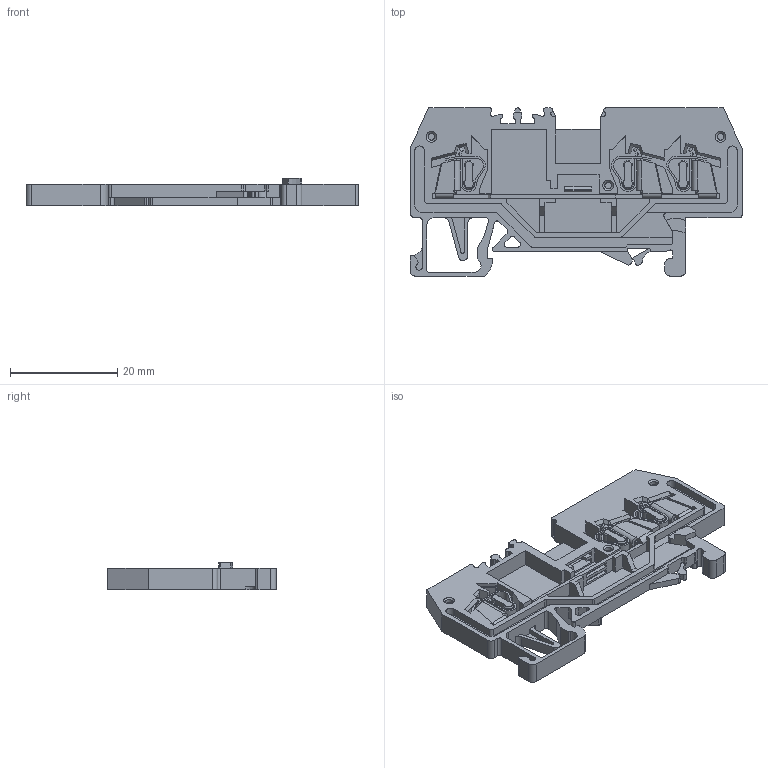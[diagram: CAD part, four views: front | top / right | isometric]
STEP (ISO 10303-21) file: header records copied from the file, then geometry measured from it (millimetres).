
FILE_DESCRIPTION (( 'STEP AP203' ), '1' );
FILE_NAME ('ﾊﾏﾐ1-1,5-3ﾂ.STEP', '2019-03-01T13:53:38', ( '' ), ( '' ), 'SwSTEP 2.0', 'SolidWorks 2016', '' );
FILE_SCHEMA (( 'CONFIG_CONTROL_DESIGN' ));
Products named in the file (1): ﾊﾏﾐ1-1,5-3ﾂ
Bounding box: 62 x 31.4 x 5.1 mm (x, y, z)
Volume: 3212 mm3; surface area: 7202 mm2
Topology: 5 solids, 5 shells, 1210 faces, 3351 edges, 2195 vertices
Faces by surface type: plane 775, cylinder 226, bspline 179, cone 27, torus 3
Full cylindrical faces by diameter (mm): 1.4 x3, 1.6 x3
Entity records: 47765 total; most frequent: CARTESIAN_POINT 17782, ORIENTED_EDGE 6670, DIRECTION 5430, EDGE_CURVE 3335, VECTOR 2442, LINE 2442, VERTEX_POINT 2194, AXIS2_PLACEMENT_3D 1494
